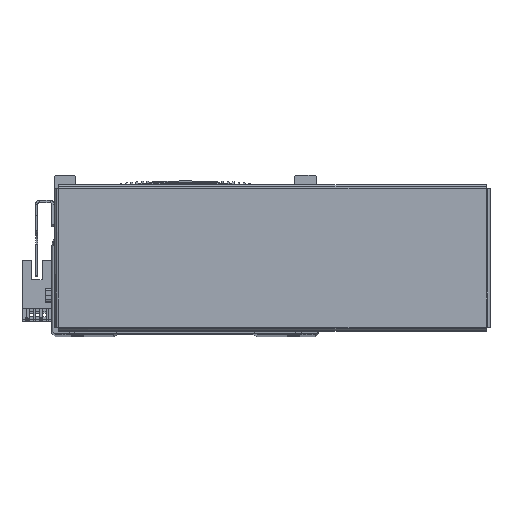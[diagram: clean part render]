
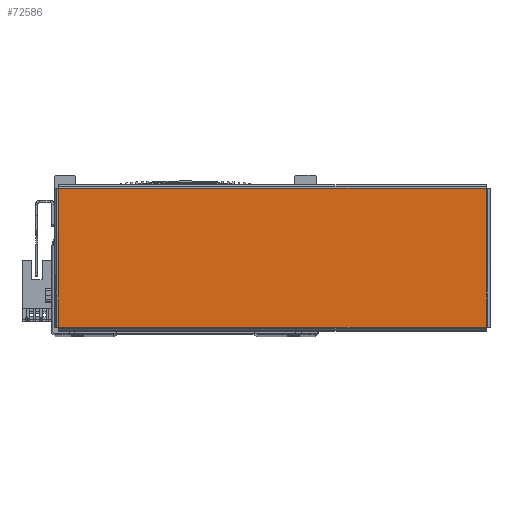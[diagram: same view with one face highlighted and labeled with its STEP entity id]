
A CAD part, top view. The second image highlights one B-rep face of the part: STEP entity #72586.
In plain terms, the highlighted planar face has unit normal (0, 0, 1) as drawn and (0, 0, -1) by its records, which use the part's own axes.
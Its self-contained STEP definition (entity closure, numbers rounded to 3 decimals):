
#45 = CARTESIAN_POINT ( 'NONE',  ( -97.863, 31.763, -1. ) ) ;
#62 = CARTESIAN_POINT ( 'NONE',  ( -97.863, -31.763, -1. ) ) ;
#67 = CARTESIAN_POINT ( 'NONE',  ( 97.863, -31.763, -1. ) ) ;
#111 = CARTESIAN_POINT ( 'NONE',  ( 97.863, 31.763, -1. ) ) ;
#4916 = VERTEX_POINT ( 'NONE', #45 ) ;
#4948 = VERTEX_POINT ( 'NONE', #111 ) ;
#4986 = VERTEX_POINT ( 'NONE', #67 ) ;
#4989 = VERTEX_POINT ( 'NONE', #62 ) ;
#14536 = CARTESIAN_POINT ( 'NONE',  ( -97.863, -31.793, -1. ) ) ;
#14550 = DIRECTION ( 'NONE',  ( 0., 1., 0. ) ) ;
#22760 = FACE_OUTER_BOUND ( 'NONE', #32570, .T. ) ;
#27441 = DIRECTION ( 'NONE',  ( 0., -1., 0. ) ) ;
#27455 = CARTESIAN_POINT ( 'NONE',  ( 97.863, 31.793, -1. ) ) ;
#27475 = DIRECTION ( 'NONE',  ( -1., 0., 0. ) ) ;
#27511 = CARTESIAN_POINT ( 'NONE',  ( 97.893, -31.763, -1. ) ) ;
#27542 = CARTESIAN_POINT ( 'NONE',  ( -97.893, 31.763, -1. ) ) ;
#27560 = DIRECTION ( 'NONE',  ( 1., 0., 0. ) ) ;
#32570 = EDGE_LOOP ( 'NONE', ( #73213, #73214, #73231, #73232 ) ) ;
#38166 = PLANE ( 'NONE',  #45653 ) ;
#38171 = DIRECTION ( 'NONE',  ( 0., 0., 1. ) ) ;
#38178 = DIRECTION ( 'NONE',  ( 1., 0., 0. ) ) ;
#38217 = CARTESIAN_POINT ( 'NONE',  ( 0., 0., -1. ) ) ;
#39357 = VECTOR ( 'NONE', #27441, 1000. ) ;
#39369 = VECTOR ( 'NONE', #27475, 1000. ) ;
#39371 = LINE ( 'NONE', #14536, #39410 ) ;
#39382 = LINE ( 'NONE', #27511, #39369 ) ;
#39402 = LINE ( 'NONE', #27455, #39357 ) ;
#39410 = VECTOR ( 'NONE', #14550, 1000. ) ;
#39414 = LINE ( 'NONE', #27542, #39418 ) ;
#39418 = VECTOR ( 'NONE', #27560, 1000. ) ;
#45653 = AXIS2_PLACEMENT_3D ( 'NONE', #38217, #38171, #38178 ) ;
#49935 = EDGE_CURVE ( 'NONE', #4989, #4916, #39371, .T. ) ;
#49957 = EDGE_CURVE ( 'NONE', #4948, #4986, #39402, .T. ) ;
#49965 = EDGE_CURVE ( 'NONE', #4986, #4989, #39382, .T. ) ;
#49986 = EDGE_CURVE ( 'NONE', #4916, #4948, #39414, .T. ) ;
#72586 = ADVANCED_FACE ( 'NONE', ( #22760 ), #38166, .F. ) ;
#73213 = ORIENTED_EDGE ( 'NONE', *, *, #49957, .T. ) ;
#73214 = ORIENTED_EDGE ( 'NONE', *, *, #49965, .T. ) ;
#73231 = ORIENTED_EDGE ( 'NONE', *, *, #49935, .T. ) ;
#73232 = ORIENTED_EDGE ( 'NONE', *, *, #49986, .T. ) ;
